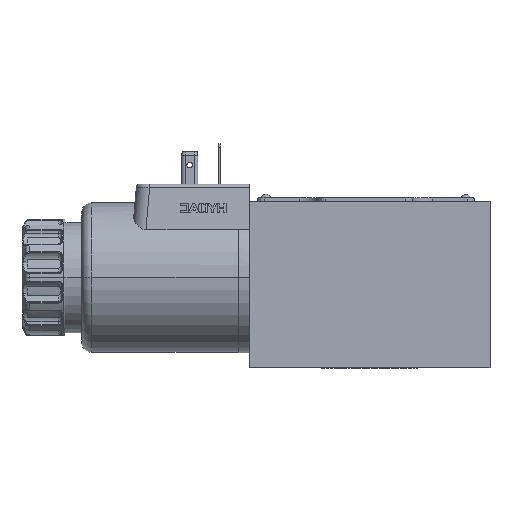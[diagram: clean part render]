
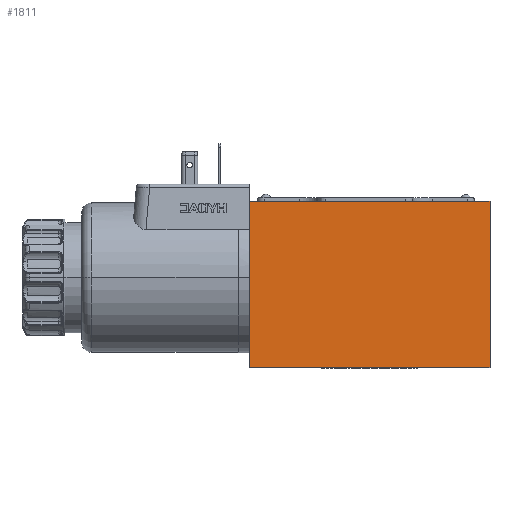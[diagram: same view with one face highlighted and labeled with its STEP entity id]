
A CAD part, top view. The second image highlights one B-rep face of the part: STEP entity #1811.
In plain terms, the highlighted planar face has unit normal (0, 0, 1).
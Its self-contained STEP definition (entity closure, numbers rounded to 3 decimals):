
#1501 = ORIENTED_EDGE ( 'NONE', *, *, #1857, .F. ) ;
#1811 = ADVANCED_FACE ( 'NONE', ( #2132 ), #15564, .F. ) ;
#1857 = EDGE_CURVE ( 'NONE', #14742, #27911, #21323, .T. ) ;
#2132 = FACE_OUTER_BOUND ( 'NONE', #28383, .T. ) ;
#2440 = DIRECTION ( 'NONE',  ( 1., 0., 0. ) ) ;
#2650 = VECTOR ( 'NONE', #14790, 1000. ) ;
#2708 = AXIS2_PLACEMENT_3D ( 'NONE', #3955, #8842, #8685 ) ;
#2893 = LINE ( 'NONE', #5482, #2650 ) ;
#3955 = CARTESIAN_POINT ( 'NONE',  ( -36., 49.85, 23. ) ) ;
#5261 = DIRECTION ( 'NONE',  ( 1., 0., 0. ) ) ;
#5288 = CARTESIAN_POINT ( 'NONE',  ( -36., 49.85, 23. ) ) ;
#5482 = CARTESIAN_POINT ( 'NONE',  ( -36., 49.85, 23. ) ) ;
#5993 = DIRECTION ( 'NONE',  ( 0., -1., 0. ) ) ;
#6492 = CARTESIAN_POINT ( 'NONE',  ( 36., 49.85, 23. ) ) ;
#8685 = DIRECTION ( 'NONE',  ( -1., 0., 0. ) ) ;
#8842 = DIRECTION ( 'NONE',  ( 0., 0., -1. ) ) ;
#9696 = EDGE_CURVE ( 'NONE', #14742, #24396, #2893, .T. ) ;
#11870 = CARTESIAN_POINT ( 'NONE',  ( 36., 0., 23. ) ) ;
#11994 = CARTESIAN_POINT ( 'NONE',  ( -36., 0., 23. ) ) ;
#12292 = LINE ( 'NONE', #11994, #26907 ) ;
#13971 = ORIENTED_EDGE ( 'NONE', *, *, #9696, .T. ) ;
#14742 = VERTEX_POINT ( 'NONE', #5288 ) ;
#14790 = DIRECTION ( 'NONE',  ( 0., -1., 0. ) ) ;
#15564 = PLANE ( 'NONE',  #2708 ) ;
#18216 = ORIENTED_EDGE ( 'NONE', *, *, #28935, .T. ) ;
#20321 = ORIENTED_EDGE ( 'NONE', *, *, #25706, .F. ) ;
#20668 = VECTOR ( 'NONE', #5993, 1000. ) ;
#21323 = LINE ( 'NONE', #26193, #22157 ) ;
#22157 = VECTOR ( 'NONE', #2440, 1000. ) ;
#24189 = VERTEX_POINT ( 'NONE', #11870 ) ;
#24396 = VERTEX_POINT ( 'NONE', #25664 ) ;
#25664 = CARTESIAN_POINT ( 'NONE',  ( -36., 0., 23. ) ) ;
#25706 = EDGE_CURVE ( 'NONE', #27911, #24189, #26862, .T. ) ;
#26193 = CARTESIAN_POINT ( 'NONE',  ( -36., 49.85, 23. ) ) ;
#26862 = LINE ( 'NONE', #29593, #20668 ) ;
#26907 = VECTOR ( 'NONE', #5261, 1000. ) ;
#27911 = VERTEX_POINT ( 'NONE', #6492 ) ;
#28383 = EDGE_LOOP ( 'NONE', ( #18216, #20321, #1501, #13971 ) ) ;
#28935 = EDGE_CURVE ( 'NONE', #24396, #24189, #12292, .T. ) ;
#29593 = CARTESIAN_POINT ( 'NONE',  ( 36., 49.85, 23. ) ) ;
